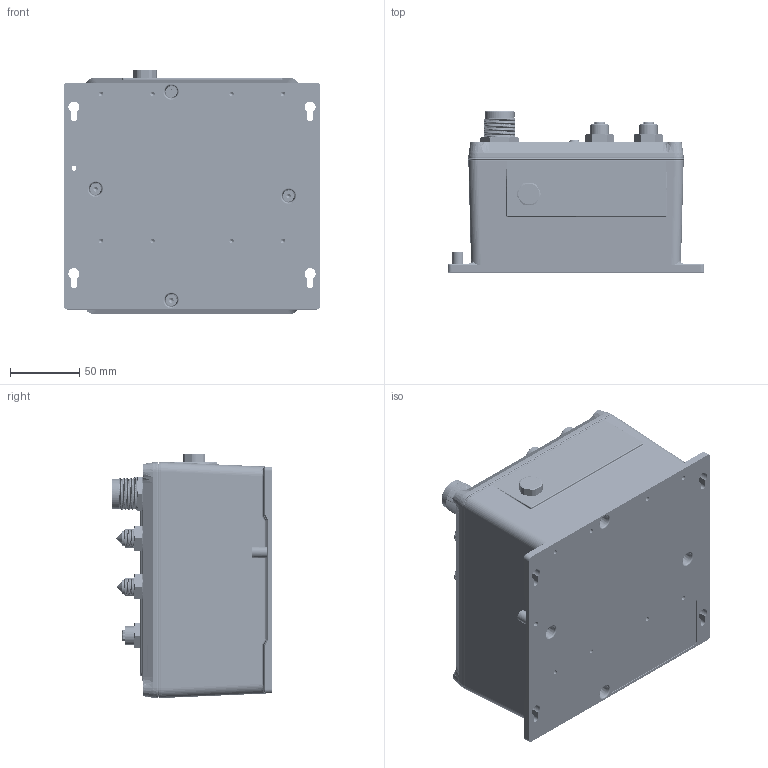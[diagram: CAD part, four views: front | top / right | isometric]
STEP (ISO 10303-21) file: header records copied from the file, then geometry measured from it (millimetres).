
FILE_DESCRIPTION((''),'2;1');
FILE_NAME('3D_TN-5508A-8POE','2014-10-19T',('Vincent_Huang'),(''),'PRO/ENGINEER BY PARAMETRIC TECHNOLOGY CORPORATION, 2004320','PRO/ENGINEER BY PARAMETRIC TECHNOLOGY CORPORATION, 2004320','');
FILE_SCHEMA(('CONFIG_CONTROL_DESIGN'));
Products named in the file (1): 3D_TN-5508A-8POE
Bounding box: 185 x 115.8 x 175.8 mm (x, y, z)
Surface area: 475431.8 mm2 (no closed solid volume)
Topology: 0 solids, 51 shells, 10073 faces, 27162 edges, 17551 vertices
Faces by surface type: plane 5451, cylinder 2377, cone 961, bspline 733, torus 368, sphere 183
Entity records: 375016 total; most frequent: CARTESIAN_POINT 127967, ORIENTED_EDGE 53554, DIRECTION 47298, EDGE_CURVE 26889, VERTEX_POINT 17549, VECTOR 16592, LINE 16592, AXIS2_PLACEMENT_3D 15353
